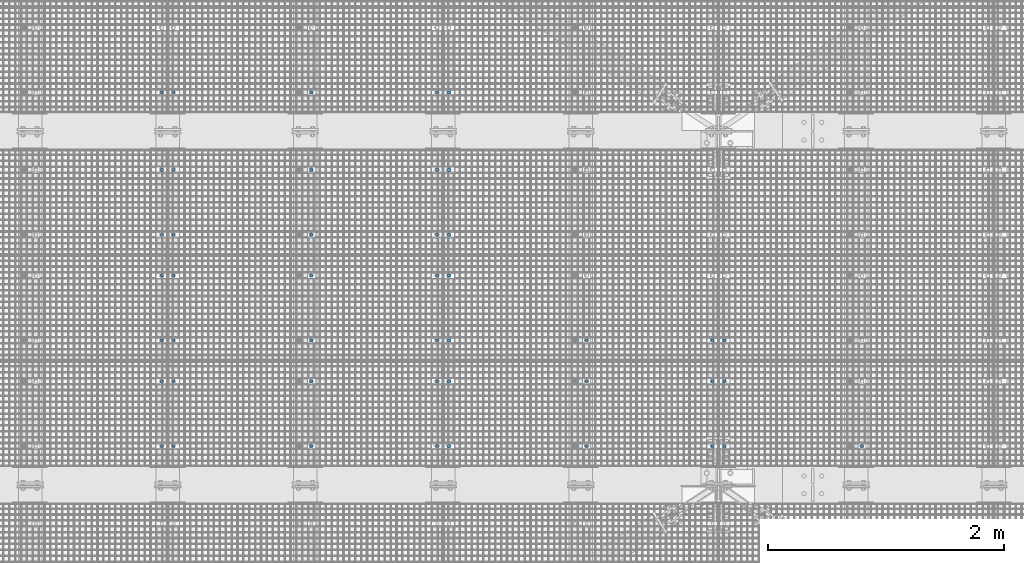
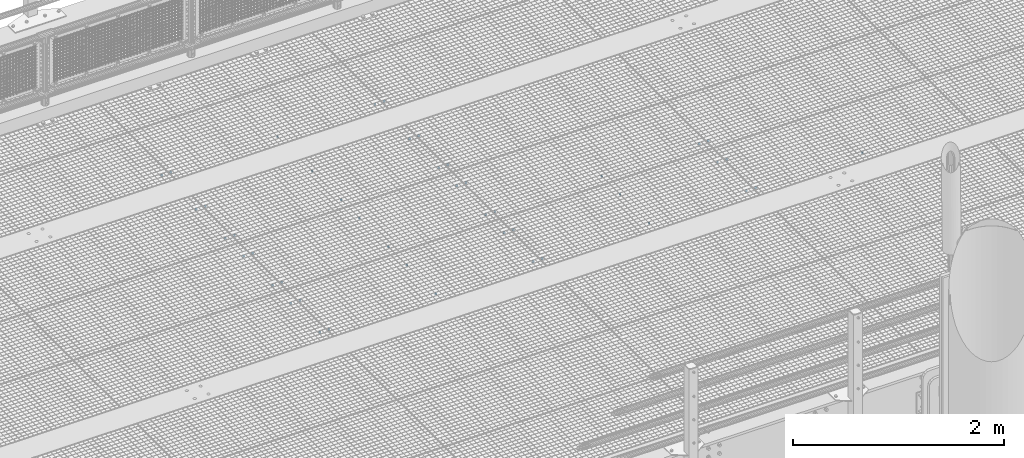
# One storey, part 68 of 1530: 45 mechanical fasteners.
"""IFC2X3 building model written with IfcOpenShell, lengths in millimetres."""

from ifc_helpers import new_model, si_unit, frame, origin_with_axes, place, context, subcontext, project, spatial, faceted_brep, source, transform, mapped, material, type_object, element, save


model = new_model("IFC2X3")

# Units and contexts
model_context = context("Model", 3, precision=1e-05, world=origin_with_axes())
body_context = subcontext(model_context, "Body", "Model", "MODEL_VIEW")
ifc_project = project(units=[si_unit("LENGTHUNIT", "METRE", prefix="MILLI"), si_unit("AREAUNIT", "SQUARE_METRE"), si_unit("VOLUMEUNIT", "CUBIC_METRE"), si_unit("MASSUNIT", "GRAM", prefix="KILO"), si_unit("TIMEUNIT", "SECOND"), si_unit("PLANEANGLEUNIT", "RADIAN"), si_unit("SOLIDANGLEUNIT", "STERADIAN"), si_unit("THERMODYNAMICTEMPERATUREUNIT", "DEGREE_CELSIUS"), si_unit("LUMINOUSINTENSITYUNIT", "LUMEN")], contexts=[model_context])

# Site, building, storey
site_placement = place(None, origin_with_axes())
site = spatial("IfcSite", under=ifc_project, at=site_placement, Name="Brattvåg", CompositionType="ELEMENT")
building_placement = place(site_placement, origin_with_axes())
building = spatial("IfcBuilding", under=site, at=building_placement, Name="Undefined", CompositionType="ELEMENT")
storey_placement = place(building_placement, origin_with_axes())
storey = spatial("IfcBuildingStorey", under=building, at=storey_placement, Name="Undefined", CompositionType="ELEMENT", Elevation=0.0)

# Mechanical fasteners
ifc_material = material(Name="8")
mechanical_fastener_type = type_object("IfcMechanicalFastenerType", Name="Bolt assembly")
shared_shape = source(origin_with_axes(), body_context, "Body", "Brep", [
    faceted_brep([(11.0, -4.99999999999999, 0.0), (9.52627944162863, -4.99999999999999, 5.50000000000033), (5.49999999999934, -4.99999999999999, 9.5262794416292), (-1.13996957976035e-12, -4.99999999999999, 11.0), (-5.50000000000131, -4.99999999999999, 9.52627944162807), (-9.52627944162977, -4.99999999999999, 5.49999999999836), (-11.0, -4.99999999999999, -2.27993915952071e-12), (-9.5262794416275, -4.99999999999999, -5.5000000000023), (-5.49999999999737, -4.99999999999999, -9.52627944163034), (3.40769628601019e-12, -4.99999999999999, -11.0), (5.50000000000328, -4.99999999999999, -9.52627944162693), (9.52627944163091, -4.99999999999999, -5.49999999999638), (9.52627944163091, 10.1, -5.49999999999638), (5.50000000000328, 10.1, -9.52627944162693), (3.40769628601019e-12, 10.1, -11.0), (-5.49999999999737, 10.1, -9.52627944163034), (-9.5262794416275, 10.1, -5.5000000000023), (-11.0, 10.1, -2.27993915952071e-12), (-9.52627944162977, 10.1, 5.49999999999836), (-5.50000000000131, 10.1, 9.52627944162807), (-1.13996957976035e-12, 10.1, 11.0), (5.49999999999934, 10.1, 9.5262794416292), (9.52627944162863, 10.1, 5.50000000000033), (11.0, 10.1, 0.0)], [[[0, 1, 2, 3, 4, 5, 6, 7, 8, 9, 10, 11]], [[12, 13, 14, 15, 16, 17, 18, 19, 20, 21, 22, 23]], [[0, 23, 22, 1]], [[1, 22, 21, 2]], [[2, 21, 20, 3]], [[3, 20, 19, 4]], [[4, 19, 18, 5]], [[5, 18, 17, 6]], [[6, 17, 16, 7]], [[7, 16, 15, 8]], [[8, 15, 14, 9]], [[9, 14, 13, 10]], [[10, 13, 12, 11]], [[11, 12, 23, 0]]]),
])
for number, where, z_axis, x_axis, name in (
    (1, (12300.0047793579, 4224.98931152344, -35.0), (0.0, 1.0, 0.0), (1.0, 0.0, 0.0), "Bolt assembly"),
    (2, (12300.0047793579, 3327.98931152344, -35.0), (0.0, 1.0, 0.0), (1.0, 0.0, 0.0), "Bolt assembly"),
    (3, (12300.0047793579, 3877.99411010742, -35.0), (0.0, 1.0, 0.0), (1.0, 0.0, 0.0), "Bolt assembly"),
    (4, (13468.0119254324, 3327.99, -35.0), (0.0, -1.0, 0.0), (-1.0, 1.99999855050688e-09, 0.0), "Bolt assembly"),
    (5, (9964.00477935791, 6327.98931152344, -35.0), (0.0, 1.0, 0.0), (1.0, 0.0, 0.0), "Bolt assembly"),
    (6, (9964.00477935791, 5121.98931152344, -35.0), (0.0, 1.0, 0.0), (1.0, 0.0, 0.0), "Bolt assembly"),
    (7, (9964.00477935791, 5671.99411010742, -35.0), (0.0, 1.0, 0.0), (1.0, 0.0, 0.0), "Bolt assembly"),
    (8, (9964.00477935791, 4224.98931152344, -35.0), (0.0, 1.0, 0.0), (1.0, 0.0, 0.0), "Bolt assembly"),
    (9, (9964.00477935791, 4774.99411010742, -35.0), (0.0, 1.0, 0.0), (1.0, 0.0, 0.0), "Bolt assembly"),
    (10, (12200.0148773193, 4224.9904864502, -35.0), (0.0, -1.0, 0.0), (-1.0, 1.99999855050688e-09, 0.0), "Bolt assembly"),
    (11, (11132.0119254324, 4224.99, -35.0), (0.0, -1.0, 0.0), (-1.0, 1.99999855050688e-09, 0.0), "Bolt assembly"),
    (12, (9964.00477935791, 3327.98931152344, -35.0), (0.0, 1.0, 0.0), (1.0, 0.0, 0.0), "Bolt assembly"),
    (13, (9964.00477935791, 3877.99411010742, -35.0), (0.0, 1.0, 0.0), (1.0, 0.0, 0.0), "Bolt assembly"),
    (14, (12200.0148773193, 3877.99411010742, -35.0), (0.0, -1.0, 0.0), (-1.0, 1.99999855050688e-09, 0.0), "Bolt assembly"),
    (15, (12200.0148773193, 3327.9904864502, -35.0), (0.0, -1.0, 0.0), (-1.0, 1.99999855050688e-09, 0.0), "Bolt assembly"),
    (16, (11132.0145606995, 3877.99565124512, -35.0), (0.0, -1.0, 0.0), (-1.0, 1.99999855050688e-09, 0.0), "Bolt assembly"),
    (17, (11132.0119254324, 3327.99, -35.0), (0.0, -1.0, 0.0), (-1.0, 1.99999855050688e-09, 0.0), "Bolt assembly"),
    (18, (7628.00477935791, 6327.98931152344, -35.0), (0.0, 1.0, 0.0), (1.0, 0.0, 0.0), "Bolt assembly"),
    (19, (9864.01487731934, 6327.9904864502, -35.0), (0.0, -1.0, 0.0), (-1.0, 1.99999855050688e-09, 0.0), "Bolt assembly"),
    (20, (8796.01192543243, 6327.99, -35.0), (0.0, -1.0, 0.0), (-1.0, 1.99999855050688e-09, 0.0), "Bolt assembly"),
    (21, (7628.00477935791, 5121.98931152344, -35.0), (0.0, 1.0, 0.0), (1.0, 0.0, 0.0), "Bolt assembly"),
    (22, (7628.00477935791, 5671.99411010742, -35.0), (0.0, 1.0, 0.0), (1.0, 0.0, 0.0), "Bolt assembly"),
    (23, (9864.01487731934, 5671.99411010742, -35.0), (0.0, -1.0, 0.0), (-1.0, 1.99999855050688e-09, 0.0), "Bolt assembly"),
    (24, (9864.01487731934, 5121.9904864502, -35.0), (0.0, -1.0, 0.0), (-1.0, 1.99999855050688e-09, 0.0), "Bolt assembly"),
    (25, (8796.01456069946, 5671.99565124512, -35.0), (0.0, -1.0, 0.0), (-1.0, 1.99999855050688e-09, 0.0), "Bolt assembly"),
    (26, (8796.01192543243, 5121.99, -35.0), (0.0, -1.0, 0.0), (-1.0, 1.99999855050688e-09, 0.0), "Bolt assembly"),
    (27, (7628.00477935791, 4224.98931152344, -35.0), (0.0, 1.0, 0.0), (1.0, 0.0, 0.0), "Bolt assembly"),
    (28, (7628.00477935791, 4774.99411010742, -35.0), (0.0, 1.0, 0.0), (1.0, 0.0, 0.0), "Bolt assembly"),
    (29, (9864.01487731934, 4774.99411010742, -35.0), (0.0, -1.0, 0.0), (-1.0, 1.99999855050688e-09, 0.0), "Bolt assembly"),
    (30, (9864.01487731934, 4224.9904864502, -35.0), (0.0, -1.0, 0.0), (-1.0, 1.99999855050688e-09, 0.0), "Bolt assembly"),
    (31, (8796.01456069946, 4774.99565124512, -35.0), (0.0, -1.0, 0.0), (-1.0, 1.99999855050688e-09, 0.0), "Bolt assembly"),
    (32, (8796.01192543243, 4224.99, -35.0), (0.0, -1.0, 0.0), (-1.0, 1.99999855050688e-09, 0.0), "Bolt assembly"),
    (33, (7628.00477935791, 3327.98931152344, -35.0), (0.0, 1.0, 0.0), (1.0, 0.0, 0.0), "Bolt assembly"),
    (34, (7628.00477935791, 3877.99411010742, -35.0), (0.0, 1.0, 0.0), (1.0, 0.0, 0.0), "Bolt assembly"),
    (35, (9864.01487731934, 3877.99411010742, -35.0), (0.0, -1.0, 0.0), (-1.0, 1.99999855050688e-09, 0.0), "Bolt assembly"),
    (36, (9864.01487731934, 3327.9904864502, -35.0), (0.0, -1.0, 0.0), (-1.0, 1.99999855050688e-09, 0.0), "Bolt assembly"),
    (37, (8796.01456069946, 3877.99565124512, -35.0), (0.0, -1.0, 0.0), (-1.0, 1.99999855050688e-09, 0.0), "Bolt assembly"),
    (38, (8796.01192543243, 3327.99, -35.0), (0.0, -1.0, 0.0), (-1.0, 1.99999855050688e-09, 0.0), "Bolt assembly"),
    (39, (7528.01487731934, 6327.9904864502, -35.0), (0.0, -1.0, 0.0), (-1.0, 1.99999855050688e-09, 0.0), "Bolt assembly"),
    (40, (7528.01487731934, 5671.99411010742, -35.0), (0.0, -1.0, 0.0), (-1.0, 1.99999855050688e-09, 0.0), "Bolt assembly"),
    (41, (7528.01487731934, 5121.9904864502, -35.0), (0.0, -1.0, 0.0), (-1.0, 1.99999855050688e-09, 0.0), "Bolt assembly"),
    (42, (7528.01487731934, 4774.99411010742, -35.0), (0.0, -1.0, 0.0), (-1.0, 1.99999855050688e-09, 0.0), "Bolt assembly"),
    (43, (7528.01487731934, 4224.9904864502, -35.0), (0.0, -1.0, 0.0), (-1.0, 1.99999855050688e-09, 0.0), "Bolt assembly"),
    (44, (7528.01487731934, 3877.99411010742, -35.0), (0.0, -1.0, 0.0), (-1.0, 1.99999855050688e-09, 0.0), "Bolt assembly"),
    (45, (7528.01487731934, 3327.9904864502, -35.0), (0.0, -1.0, 0.0), (-1.0, 1.99999855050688e-09, 0.0), "Bolt assembly"),
):
    element("IfcMechanicalFastener", number, at=place(storey_placement, frame(where, z_axis=z_axis, x_axis=x_axis)), inside=storey, type_object=mechanical_fastener_type, material=ifc_material, Name=name, NominalDiameter=20.0, NominalLength=15.0, context=body_context, shape_type="MappedRepresentation", body=[
        mapped(shared_shape, transform((0.0, 0.0, 0.0))),
    ])

save(model, "model.ifc")
